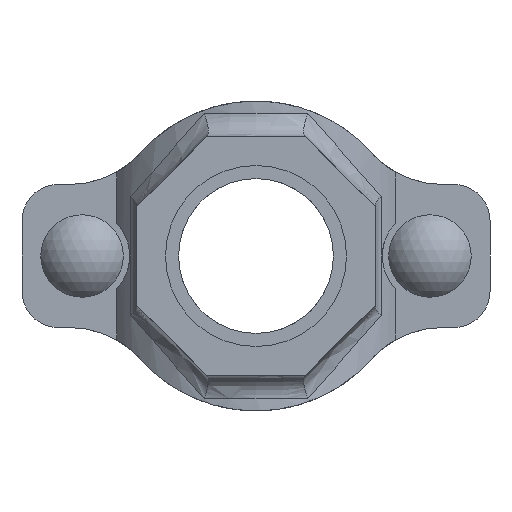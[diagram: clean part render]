
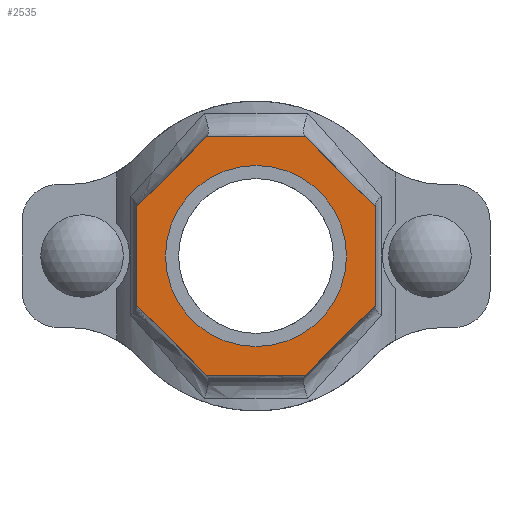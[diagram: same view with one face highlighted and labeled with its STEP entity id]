
A CAD part, front view. The second image highlights one B-rep face of the part: STEP entity #2535.
In plain terms, the highlighted planar face has unit normal (0, -1, 0) as drawn and (0, 1, 0) by its records, which use the part's own axes.
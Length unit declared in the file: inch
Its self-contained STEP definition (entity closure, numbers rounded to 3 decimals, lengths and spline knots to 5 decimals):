
#178=FACE_BOUND('',#447,.T.);
#295=FACE_OUTER_BOUND('',#446,.T.);
#446=EDGE_LOOP('',(#2116,#2117,#2118,#2119,#2120,#2121,#2122,#2123));
#447=EDGE_LOOP('',(#2124));
#586=LINE('',#4665,#772);
#589=LINE('',#4670,#775);
#591=LINE('',#4674,#777);
#593=LINE('',#4678,#779);
#626=LINE('',#5044,#812);
#628=LINE('',#5048,#814);
#630=LINE('',#5052,#816);
#632=LINE('',#5055,#818);
#772=VECTOR('',#3294,0.3937);
#775=VECTOR('',#3299,0.3937);
#777=VECTOR('',#3303,0.3937);
#779=VECTOR('',#3307,0.3937);
#812=VECTOR('',#3426,0.3937);
#814=VECTOR('',#3430,0.3937);
#816=VECTOR('',#3434,0.3937);
#818=VECTOR('',#3438,0.3937);
#915=CIRCLE('',#2807,0.95);
#1097=VERTEX_POINT('',#4662);
#1098=VERTEX_POINT('',#4664);
#1099=VERTEX_POINT('',#4668);
#1100=VERTEX_POINT('',#4672);
#1101=VERTEX_POINT('',#4676);
#1138=VERTEX_POINT('',#4938);
#1153=VERTEX_POINT('',#5043);
#1154=VERTEX_POINT('',#5047);
#1155=VERTEX_POINT('',#5051);
#1408=EDGE_CURVE('',#1098,#1097,#586,.T.);
#1411=EDGE_CURVE('',#1097,#1099,#589,.T.);
#1413=EDGE_CURVE('',#1099,#1100,#591,.T.);
#1415=EDGE_CURVE('',#1100,#1101,#593,.T.);
#1464=EDGE_CURVE('',#1138,#1138,#915,.T.);
#1483=EDGE_CURVE('',#1153,#1098,#626,.T.);
#1485=EDGE_CURVE('',#1154,#1153,#628,.T.);
#1487=EDGE_CURVE('',#1155,#1154,#630,.T.);
#1489=EDGE_CURVE('',#1101,#1155,#632,.T.);
#2116=ORIENTED_EDGE('',*,*,#1489,.T.);
#2117=ORIENTED_EDGE('',*,*,#1487,.T.);
#2118=ORIENTED_EDGE('',*,*,#1485,.T.);
#2119=ORIENTED_EDGE('',*,*,#1483,.T.);
#2120=ORIENTED_EDGE('',*,*,#1408,.T.);
#2121=ORIENTED_EDGE('',*,*,#1411,.T.);
#2122=ORIENTED_EDGE('',*,*,#1413,.T.);
#2123=ORIENTED_EDGE('',*,*,#1415,.T.);
#2124=ORIENTED_EDGE('',*,*,#1464,.T.);
#2278=PLANE('',#2824);
#2535=ADVANCED_FACE('',(#295,#178),#2278,.T.);
#2807=AXIS2_PLACEMENT_3D('',#4939,#3390,#3391);
#2824=AXIS2_PLACEMENT_3D('',#5056,#3439,#3440);
#3294=DIRECTION('',(0.,0.,1.));
#3299=DIRECTION('',(0.707,0.,0.707));
#3303=DIRECTION('',(1.,0.,0.));
#3307=DIRECTION('',(0.707,0.,-0.707));
#3390=DIRECTION('center_axis',(0.,-1.,0.));
#3391=DIRECTION('ref_axis',(-1.,0.,0.));
#3426=DIRECTION('',(-0.707,0.,0.707));
#3430=DIRECTION('',(-1.,0.,0.));
#3434=DIRECTION('',(-0.707,0.,-0.707));
#3438=DIRECTION('',(0.,0.,-1.));
#3439=DIRECTION('center_axis',(0.,1.,0.));
#3440=DIRECTION('ref_axis',(0.,0.,1.));
#4662=CARTESIAN_POINT('',(-1.25,2.75,0.51777));
#4664=CARTESIAN_POINT('',(-1.25,2.75,-0.51777));
#4665=CARTESIAN_POINT('',(-1.25,2.75,0.51777));
#4668=CARTESIAN_POINT('',(-0.51777,2.75,1.25));
#4670=CARTESIAN_POINT('',(-0.51777,2.75,1.25));
#4672=CARTESIAN_POINT('',(0.51777,2.75,1.25));
#4674=CARTESIAN_POINT('',(0.51777,2.75,1.25));
#4676=CARTESIAN_POINT('',(1.25,2.75,0.51777));
#4678=CARTESIAN_POINT('',(1.25,2.75,0.51777));
#4938=CARTESIAN_POINT('',(0.95,2.75,0.));
#4939=CARTESIAN_POINT('Origin',(0.,2.75,0.));
#5043=CARTESIAN_POINT('',(-0.51777,2.75,-1.25));
#5044=CARTESIAN_POINT('',(-1.25,2.75,-0.51777));
#5047=CARTESIAN_POINT('',(0.51777,2.75,-1.25));
#5048=CARTESIAN_POINT('',(-0.51777,2.75,-1.25));
#5051=CARTESIAN_POINT('',(1.25,2.75,-0.51777));
#5052=CARTESIAN_POINT('',(0.51777,2.75,-1.25));
#5055=CARTESIAN_POINT('',(1.25,2.75,-0.51777));
#5056=CARTESIAN_POINT('Origin',(0.,2.75,0.));
